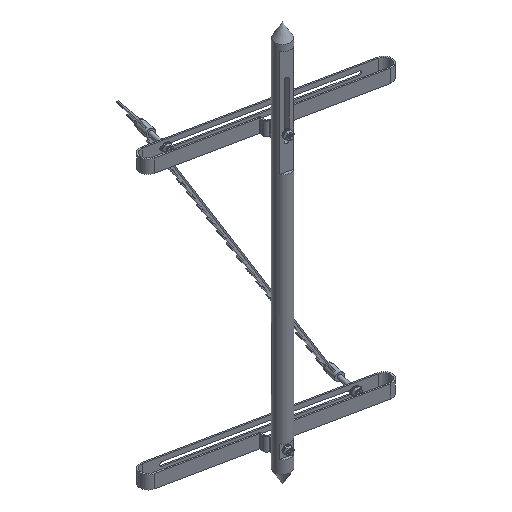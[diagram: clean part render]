
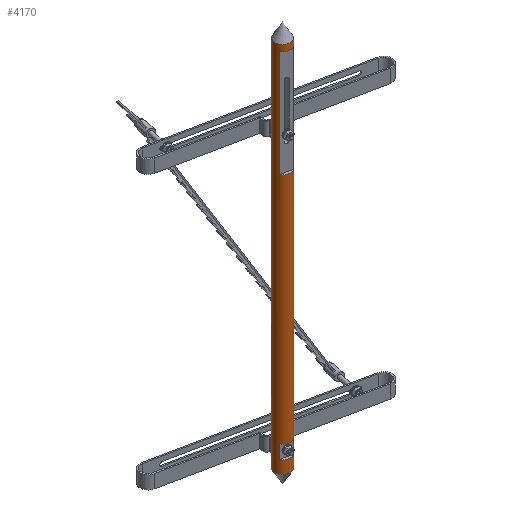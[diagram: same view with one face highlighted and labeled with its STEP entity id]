
A CAD part, isometric view. The second image highlights one B-rep face of the part: STEP entity #4170.
In plain terms, the highlighted cylindrical face has radius 12 mm (diameter 24 mm), a full revolution.
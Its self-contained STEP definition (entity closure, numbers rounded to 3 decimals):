
#425=LINE('',#6728,#747);
#426=LINE('',#6729,#748);
#429=LINE('',#6741,#751);
#430=LINE('',#6742,#752);
#433=LINE('',#6754,#755);
#434=LINE('',#6755,#756);
#437=LINE('',#6767,#759);
#438=LINE('',#6768,#760);
#747=VECTOR('',#5462,160.);
#748=VECTOR('',#5463,160.);
#751=VECTOR('',#5476,20.);
#752=VECTOR('',#5477,20.);
#755=VECTOR('',#5490,20.);
#756=VECTOR('',#5491,20.);
#759=VECTOR('',#5504,160.);
#760=VECTOR('',#5505,160.);
#1062=FACE_BOUND('',#1546,.T.);
#1063=FACE_BOUND('',#1547,.T.);
#1064=FACE_BOUND('',#1548,.T.);
#1065=FACE_BOUND('',#1549,.T.);
#1066=FACE_BOUND('',#1550,.T.);
#1067=FACE_BOUND('',#1551,.T.);
#1546=EDGE_LOOP('',(#3539,#3540,#3541,#3542));
#1547=EDGE_LOOP('',(#3543,#3544,#3545,#3546));
#1548=EDGE_LOOP('',(#3547,#3548,#3549,#3550));
#1549=EDGE_LOOP('',(#3551,#3552,#3553,#3554));
#1550=EDGE_LOOP('',(#3555));
#1551=EDGE_LOOP('',(#3556));
#1779=CIRCLE('',#4522,12.);
#1780=CIRCLE('',#4524,12.);
#1781=CIRCLE('',#4527,12.);
#1782=CIRCLE('',#4529,12.);
#1783=CIRCLE('',#4532,12.);
#1784=CIRCLE('',#4534,12.);
#1785=CIRCLE('',#4537,12.);
#1786=CIRCLE('',#4539,12.);
#1787=CIRCLE('',#4542,12.);
#1788=CIRCLE('',#4544,12.);
#2106=VERTEX_POINT('',#6718);
#2107=VERTEX_POINT('',#6719);
#2108=VERTEX_POINT('',#6723);
#2109=VERTEX_POINT('',#6724);
#2110=VERTEX_POINT('',#6731);
#2111=VERTEX_POINT('',#6732);
#2112=VERTEX_POINT('',#6736);
#2113=VERTEX_POINT('',#6737);
#2114=VERTEX_POINT('',#6744);
#2115=VERTEX_POINT('',#6745);
#2116=VERTEX_POINT('',#6749);
#2117=VERTEX_POINT('',#6750);
#2118=VERTEX_POINT('',#6757);
#2119=VERTEX_POINT('',#6758);
#2120=VERTEX_POINT('',#6762);
#2121=VERTEX_POINT('',#6763);
#2122=VERTEX_POINT('',#6770);
#2123=VERTEX_POINT('',#6773);
#2603=EDGE_CURVE('',#2106,#2107,#1779,.T.);
#2605=EDGE_CURVE('',#2108,#2109,#1780,.T.);
#2607=EDGE_CURVE('',#2109,#2106,#425,.T.);
#2608=EDGE_CURVE('',#2107,#2108,#426,.T.);
#2609=EDGE_CURVE('',#2110,#2111,#1781,.T.);
#2611=EDGE_CURVE('',#2112,#2113,#1782,.T.);
#2613=EDGE_CURVE('',#2113,#2110,#429,.T.);
#2614=EDGE_CURVE('',#2111,#2112,#430,.T.);
#2615=EDGE_CURVE('',#2114,#2115,#1783,.T.);
#2617=EDGE_CURVE('',#2116,#2117,#1784,.T.);
#2619=EDGE_CURVE('',#2117,#2114,#433,.T.);
#2620=EDGE_CURVE('',#2115,#2116,#434,.T.);
#2621=EDGE_CURVE('',#2118,#2119,#1785,.T.);
#2623=EDGE_CURVE('',#2120,#2121,#1786,.T.);
#2625=EDGE_CURVE('',#2121,#2118,#437,.T.);
#2626=EDGE_CURVE('',#2119,#2120,#438,.T.);
#2627=EDGE_CURVE('',#2122,#2122,#1787,.T.);
#2628=EDGE_CURVE('',#2123,#2123,#1788,.T.);
#3539=ORIENTED_EDGE('',*,*,#2605,.T.);
#3540=ORIENTED_EDGE('',*,*,#2607,.T.);
#3541=ORIENTED_EDGE('',*,*,#2603,.T.);
#3542=ORIENTED_EDGE('',*,*,#2608,.T.);
#3543=ORIENTED_EDGE('',*,*,#2611,.T.);
#3544=ORIENTED_EDGE('',*,*,#2613,.T.);
#3545=ORIENTED_EDGE('',*,*,#2609,.T.);
#3546=ORIENTED_EDGE('',*,*,#2614,.T.);
#3547=ORIENTED_EDGE('',*,*,#2617,.T.);
#3548=ORIENTED_EDGE('',*,*,#2619,.T.);
#3549=ORIENTED_EDGE('',*,*,#2615,.T.);
#3550=ORIENTED_EDGE('',*,*,#2620,.T.);
#3551=ORIENTED_EDGE('',*,*,#2623,.T.);
#3552=ORIENTED_EDGE('',*,*,#2625,.T.);
#3553=ORIENTED_EDGE('',*,*,#2621,.T.);
#3554=ORIENTED_EDGE('',*,*,#2626,.T.);
#3555=ORIENTED_EDGE('',*,*,#2627,.T.);
#3556=ORIENTED_EDGE('',*,*,#2628,.F.);
#4004=CYLINDRICAL_SURFACE('',#4543,12.);
#4170=ADVANCED_FACE('',(#1062,#1063,#1064,#1065,#1066,#1067),#4004,.T.);
#4522=AXIS2_PLACEMENT_3D('',#6720,#5452,#5453);
#4524=AXIS2_PLACEMENT_3D('',#6725,#5457,#5458);
#4527=AXIS2_PLACEMENT_3D('',#6733,#5466,#5467);
#4529=AXIS2_PLACEMENT_3D('',#6738,#5471,#5472);
#4532=AXIS2_PLACEMENT_3D('',#6746,#5480,#5481);
#4534=AXIS2_PLACEMENT_3D('',#6751,#5485,#5486);
#4537=AXIS2_PLACEMENT_3D('',#6759,#5494,#5495);
#4539=AXIS2_PLACEMENT_3D('',#6764,#5499,#5500);
#4542=AXIS2_PLACEMENT_3D('',#6771,#5508,#5509);
#4543=AXIS2_PLACEMENT_3D('',#6772,#5510,#5511);
#4544=AXIS2_PLACEMENT_3D('',#6774,#5512,#5513);
#5452=DIRECTION('center_axis',(1.,0.,0.));
#5453=DIRECTION('ref_axis',(0.,1.,0.));
#5457=DIRECTION('center_axis',(-1.,0.,0.));
#5458=DIRECTION('ref_axis',(0.,1.,0.));
#5462=DIRECTION('',(1.,0.,0.));
#5463=DIRECTION('',(-1.,0.,0.));
#5466=DIRECTION('center_axis',(1.,0.,0.));
#5467=DIRECTION('ref_axis',(0.,1.,0.));
#5471=DIRECTION('center_axis',(-1.,0.,0.));
#5472=DIRECTION('ref_axis',(0.,1.,0.));
#5476=DIRECTION('',(1.,0.,0.));
#5477=DIRECTION('',(-1.,0.,0.));
#5480=DIRECTION('center_axis',(-1.,0.,0.));
#5481=DIRECTION('ref_axis',(0.,1.,0.));
#5485=DIRECTION('center_axis',(1.,0.,0.));
#5486=DIRECTION('ref_axis',(0.,1.,0.));
#5490=DIRECTION('',(-1.,0.,0.));
#5491=DIRECTION('',(1.,0.,0.));
#5494=DIRECTION('center_axis',(-1.,0.,0.));
#5495=DIRECTION('ref_axis',(0.,1.,0.));
#5499=DIRECTION('center_axis',(1.,0.,0.));
#5500=DIRECTION('ref_axis',(0.,1.,0.));
#5504=DIRECTION('',(-1.,0.,0.));
#5505=DIRECTION('',(1.,0.,0.));
#5508=DIRECTION('center_axis',(1.,0.,0.));
#5509=DIRECTION('ref_axis',(0.,0.,-1.));
#5510=DIRECTION('center_axis',(1.,0.,0.));
#5511=DIRECTION('ref_axis',(0.,1.,0.));
#5512=DIRECTION('center_axis',(1.,0.,0.));
#5513=DIRECTION('ref_axis',(0.,0.,-1.));
#6718=CARTESIAN_POINT('',(-110.,8.944,8.));
#6719=CARTESIAN_POINT('',(-110.,-8.944,8.));
#6720=CARTESIAN_POINT('Origin',(-110.,0.,0.));
#6723=CARTESIAN_POINT('',(-270.,-8.944,8.));
#6724=CARTESIAN_POINT('',(-270.,8.944,8.));
#6725=CARTESIAN_POINT('Origin',(-270.,0.,0.));
#6728=CARTESIAN_POINT('',(0.,8.944,8.));
#6729=CARTESIAN_POINT('',(0.,-8.944,8.));
#6731=CARTESIAN_POINT('',(260.,8.944,8.));
#6732=CARTESIAN_POINT('',(260.,-8.944,8.));
#6733=CARTESIAN_POINT('Origin',(260.,0.,0.));
#6736=CARTESIAN_POINT('',(240.,-8.944,8.));
#6737=CARTESIAN_POINT('',(240.,8.944,8.));
#6738=CARTESIAN_POINT('Origin',(240.,0.,0.));
#6741=CARTESIAN_POINT('',(0.,8.944,8.));
#6742=CARTESIAN_POINT('',(0.,-8.944,8.));
#6744=CARTESIAN_POINT('',(240.,8.944,-8.));
#6745=CARTESIAN_POINT('',(240.,-8.944,-8.));
#6746=CARTESIAN_POINT('Origin',(240.,0.,0.));
#6749=CARTESIAN_POINT('',(260.,-8.944,-8.));
#6750=CARTESIAN_POINT('',(260.,8.944,-8.));
#6751=CARTESIAN_POINT('Origin',(260.,0.,0.));
#6754=CARTESIAN_POINT('',(0.,8.944,-8.));
#6755=CARTESIAN_POINT('',(0.,-8.944,-8.));
#6757=CARTESIAN_POINT('',(-270.,8.944,-8.));
#6758=CARTESIAN_POINT('',(-270.,-8.944,-8.));
#6759=CARTESIAN_POINT('Origin',(-270.,0.,0.));
#6762=CARTESIAN_POINT('',(-110.,-8.944,-8.));
#6763=CARTESIAN_POINT('',(-110.,8.944,-8.));
#6764=CARTESIAN_POINT('Origin',(-110.,0.,0.));
#6767=CARTESIAN_POINT('',(0.,8.944,-8.));
#6768=CARTESIAN_POINT('',(0.,-8.944,-8.));
#6770=CARTESIAN_POINT('',(-279.215,12.,0.));
#6771=CARTESIAN_POINT('Origin',(-279.215,0.,
0.));
#6772=CARTESIAN_POINT('Origin',(0.,0.,
0.));
#6773=CARTESIAN_POINT('',(279.215,12.,0.));
#6774=CARTESIAN_POINT('Origin',(279.215,0.,
0.));
